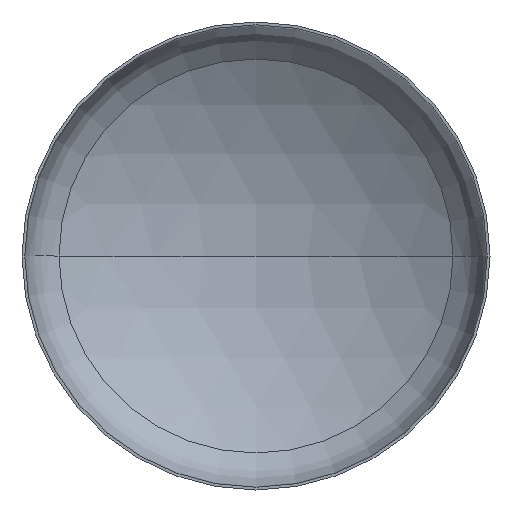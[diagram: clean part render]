
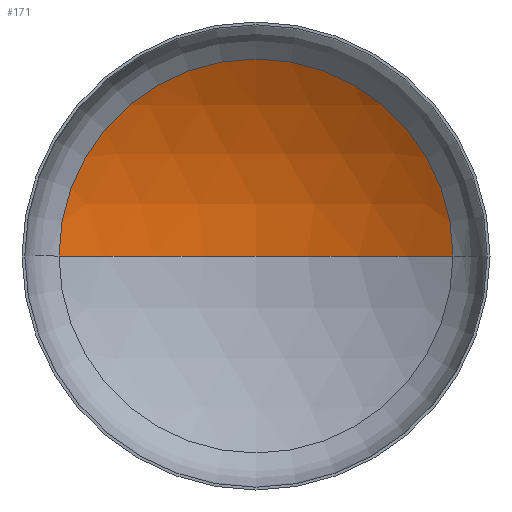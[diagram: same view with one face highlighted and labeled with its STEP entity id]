
A CAD part, front view. The second image highlights one B-rep face of the part: STEP entity #171.
In plain terms, the highlighted spherical face has radius 5600 mm.
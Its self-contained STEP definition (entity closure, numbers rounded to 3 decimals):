
#32 = CARTESIAN_POINT ( 'NONE',  ( 0., -3713.893, 0. ) ) ;
#35 = CARTESIAN_POINT ( 'NONE',  ( 2946.195, 1048.452, 0. ) ) ;
#36 = VERTEX_POINT ( 'NONE', #35 ) ;
#39 = DIRECTION ( 'NONE',  ( 1., 0., 0. ) ) ;
#66 = AXIS2_PLACEMENT_3D ( 'NONE', #315, #178, #217 ) ;
#68 = AXIS2_PLACEMENT_3D ( 'NONE', #32, #141, #39 ) ;
#69 = AXIS2_PLACEMENT_3D ( 'NONE', #145, #368, #223 ) ;
#76 = AXIS2_PLACEMENT_3D ( 'NONE', #209, #180, #173 ) ;
#106 = VERTEX_POINT ( 'NONE', #240 ) ;
#140 = ORIENTED_EDGE ( 'NONE', *, *, #164, .T. ) ;
#141 = DIRECTION ( 'NONE',  ( 0., 0., 1. ) ) ;
#145 = CARTESIAN_POINT ( 'NONE',  ( 0., -3713.893, 0. ) ) ;
#158 = ORIENTED_EDGE ( 'NONE', *, *, #170, .T. ) ;
#164 = EDGE_CURVE ( 'NONE', #36, #106, #336, .T. ) ;
#170 = EDGE_CURVE ( 'NONE', #201, #36, #279, .T. ) ;
#171 = ADVANCED_FACE ( 'NONE', ( #193 ), #392, .F. ) ;
#172 = EDGE_CURVE ( 'NONE', #201, #106, #386, .T. ) ;
#173 = DIRECTION ( 'NONE',  ( 1., 0., 0. ) ) ;
#178 = DIRECTION ( 'NONE',  ( 0., 0., -1. ) ) ;
#180 = DIRECTION ( 'NONE',  ( 0., -1., 0. ) ) ;
#193 = FACE_OUTER_BOUND ( 'NONE', #227, .T. ) ;
#201 = VERTEX_POINT ( 'NONE', #244 ) ;
#209 = CARTESIAN_POINT ( 'NONE',  ( 0., 1048.452, 0. ) ) ;
#217 = DIRECTION ( 'NONE',  ( -1., 0., 0. ) ) ;
#220 = ORIENTED_EDGE ( 'NONE', *, *, #172, .F. ) ;
#223 = DIRECTION ( 'NONE',  ( -1., 0., 0. ) ) ;
#227 = EDGE_LOOP ( 'NONE', ( #220, #158, #140 ) ) ;
#240 = CARTESIAN_POINT ( 'NONE',  ( -2946.195, 1048.452, 0. ) ) ;
#244 = CARTESIAN_POINT ( 'NONE',  ( 0., 1886.107, 0. ) ) ;
#279 = CIRCLE ( 'NONE', #69, 5600. ) ;
#315 = CARTESIAN_POINT ( 'NONE',  ( 0., -3713.893, 0. ) ) ;
#336 = CIRCLE ( 'NONE', #76, 2946.195 ) ;
#368 = DIRECTION ( 'NONE',  ( 0., 0., -1. ) ) ;
#386 = CIRCLE ( 'NONE', #68, 5600. ) ;
#392 = SPHERICAL_SURFACE ( 'NONE', #66, 5600. ) ;
